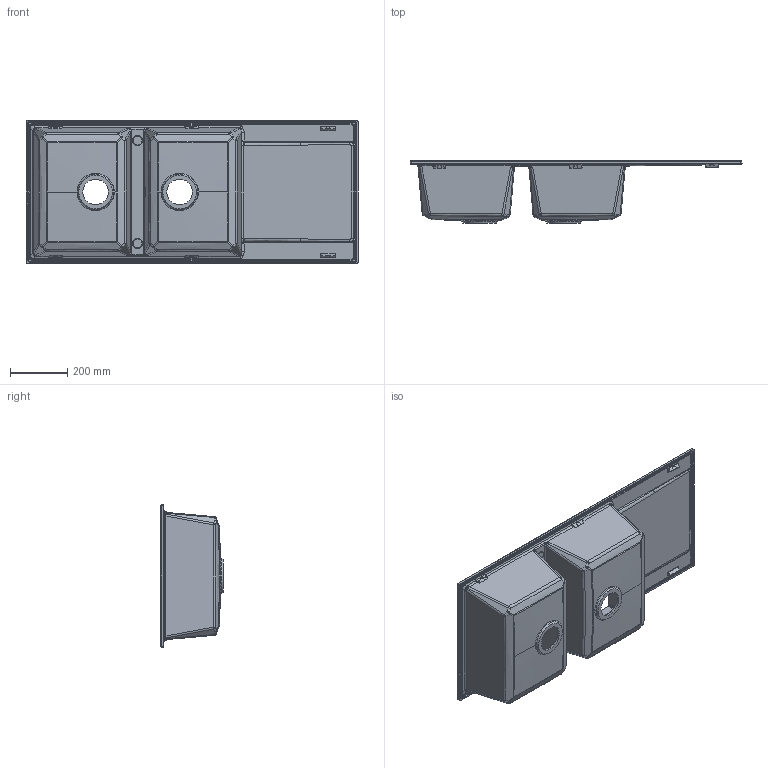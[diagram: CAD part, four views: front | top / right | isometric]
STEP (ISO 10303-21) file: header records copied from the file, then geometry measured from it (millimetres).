
FILE_DESCRIPTION (( 'STEP AP203' ), '1' );
FILE_NAME ('Easy 500.STEP', '2018-12-20T16:13:01', ( '' ), ( '' ), 'SwSTEP 2.0', 'SolidWorks 2013', '' );
FILE_SCHEMA (( 'CONFIG_CONTROL_DESIGN' ));
Length unit declared in the file: millimetre
Products named in the file (1): Easy 500
Bounding box: 1160 x 216.85 x 500 mm (x, y, z)
Volume: 8525081.4 mm3; surface area: 2117008.6 mm2
Topology: 1 solids, 1 shells, 825 faces, 1901 edges, 1068 vertices
Faces by surface type: bspline 495, cylinder 224, plane 86, cone 20
Entity records: 41653 total; most frequent: CARTESIAN_POINT 26647, ORIENTED_EDGE 3762, DIRECTION 2218, EDGE_CURVE 1881, VERTEX_POINT 1068, AXIS2_PLACEMENT_3D 887, EDGE_LOOP 841, ADVANCED_FACE 825
